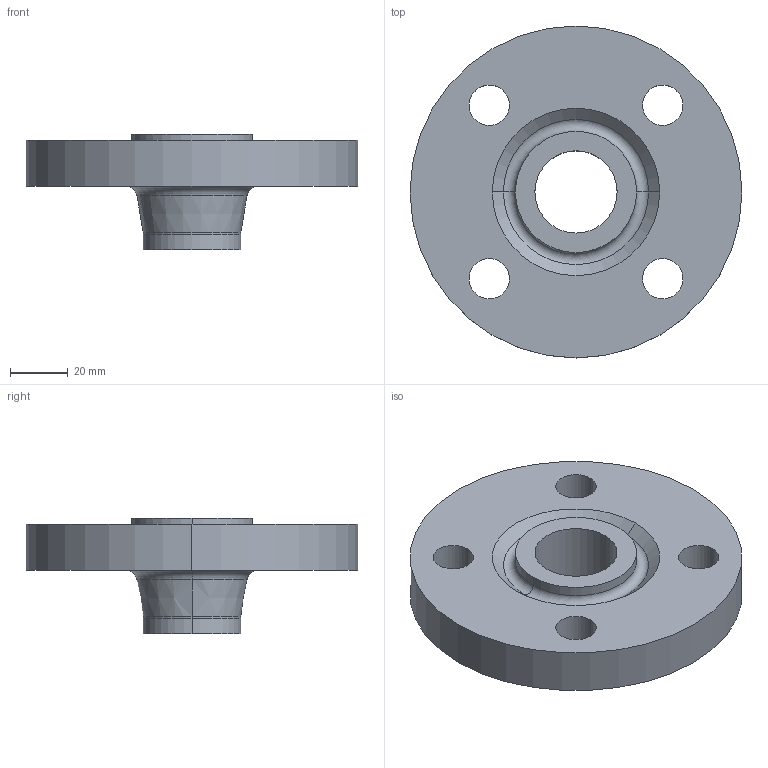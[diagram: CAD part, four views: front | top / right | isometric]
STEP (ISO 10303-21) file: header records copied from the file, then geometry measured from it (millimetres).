
FILE_DESCRIPTION (( 'STEP AP214' ), '1' );
FILE_NAME ('PN40 DN25 Type 11 - Type H Face.STEP', '2018-12-29T20:30:29', ( '' ), ( '' ), 'SwSTEP 2.0', 'SolidWorks 2019', '' );
FILE_SCHEMA (( 'AUTOMOTIVE_DESIGN' ));
Length unit declared in the file: millimetre
Products named in the file (1): PN40 DN25 Type 11 - Type H Face
Bounding box: 115 x 115 x 40 mm (x, y, z)
Volume: 152779.3 mm3; surface area: 33380.8 mm2
Topology: 1 solids, 1 shells, 30 faces, 68 edges, 42 vertices
Faces by surface type: cylinder 16, torus 6, cone 4, plane 4
Entity records: 914 total; most frequent: DIRECTION 178, CARTESIAN_POINT 141, ORIENTED_EDGE 136, AXIS2_PLACEMENT_3D 79, EDGE_CURVE 68, CIRCLE 48, VERTEX_POINT 42, EDGE_LOOP 42
